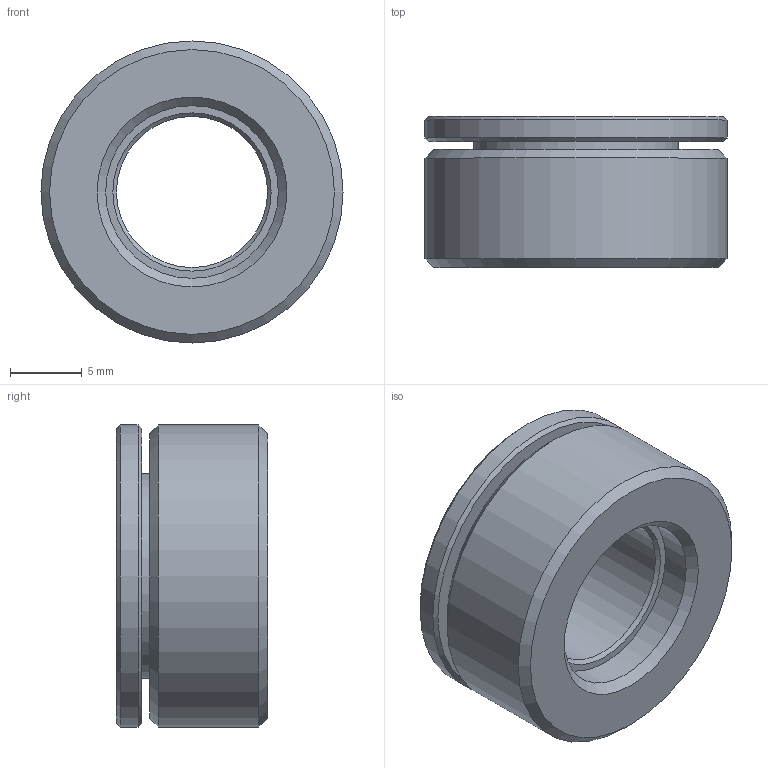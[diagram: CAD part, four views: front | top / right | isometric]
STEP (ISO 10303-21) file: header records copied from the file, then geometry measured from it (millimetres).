
FILE_DESCRIPTION( ( 'STEP AP203' ), '1' );
FILE_NAME( 'C:/Temp/Ganter_Step_05_03_2020/data/3_2/gn6319_1/gn_6319_1_st/Spherical washer GN 6319.1-21-ST.stp', '2020-03-13T05:32:15', ( 'License CC BY-ND 4.0' ), ( 'CADENAS' ), ' ', 'PARTsolutions', ' ' );
FILE_SCHEMA( ( 'CONFIG_CONTROL_DESIGN' ) );
Length unit declared in the file: millimetre
Products named in the file (1): _Spherical washer GN 6319.1-21-ST
Bounding box: 21 x 10.5 x 21 mm (x, y, z)
Volume: 2191.1 mm3; surface area: 2355.4 mm2
Topology: 1 solids, 1 shells, 23 faces, 39 edges, 23 vertices
Faces by surface type: cone 9, cylinder 7, plane 7
Full cylindrical faces by diameter (mm): 10.5 x1, 12 x1, 14.25 x1, 16.5 x1, 19.1 x1, 21 x2
Entity records: 512 total; most frequent: DIRECTION 94, CARTESIAN_POINT 70, AXIS2_PLACEMENT_3D 47, EDGE_LOOP 46, ORIENTED_EDGE 46, FACE_OUTER_BOUND 30, ADVANCED_FACE 23, EDGE_CURVE 23
